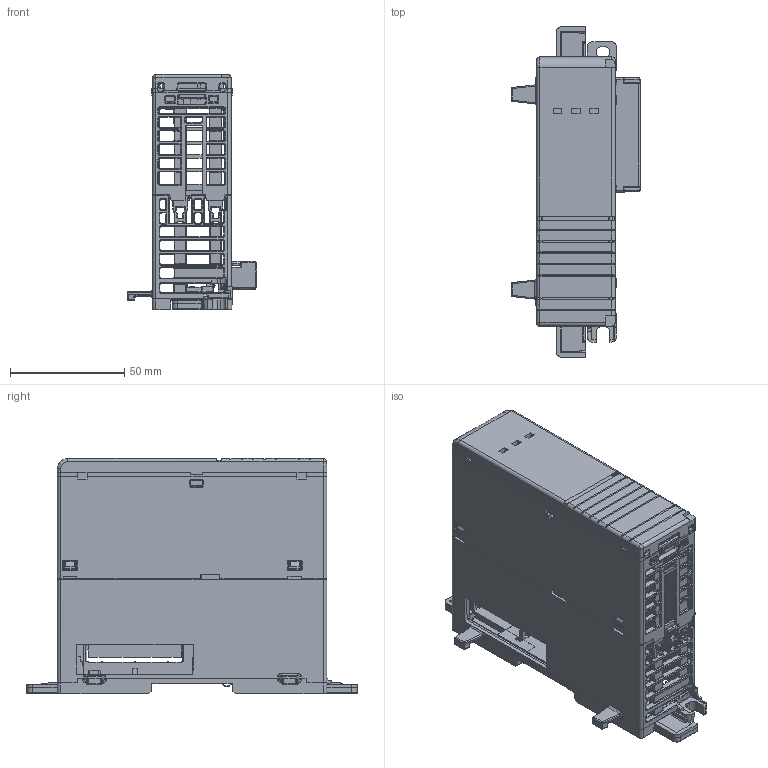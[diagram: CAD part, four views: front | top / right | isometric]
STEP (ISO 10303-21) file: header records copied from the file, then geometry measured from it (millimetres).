
FILE_DESCRIPTION((''),'2;1');
FILE_NAME('1768-M04SE','2006-04-20T',('kcornel'),('Rockwell Automation'),'PRO/ENGINEER BY PARAMETRIC TECHNOLOGY CORPORATION, 2004320','PRO/ENGINEER BY PARAMETRIC TECHNOLOGY CORPORATION, 2004320','');
FILE_SCHEMA(('CONFIG_CONTROL_DESIGN'));
Products named in the file (1): 1768-M04SE
Bounding box: 56.68 x 144.8 x 103 mm (x, y, z)
Surface area: 93346.4 mm2 (no closed solid volume)
Topology: 0 solids, 50 shells, 2411 faces, 9789 edges, 6957 vertices
Faces by surface type: plane 1402, cylinder 688, cone 141, bspline 98, torus 72, sphere 10
Entity records: 113488 total; most frequent: CARTESIAN_POINT 38789, ORIENTED_EDGE 14789, DIRECTION 13496, EDGE_CURVE 9789, VERTEX_POINT 6957, VECTOR 6614, LINE 6614, AXIS2_PLACEMENT_3D 3441
